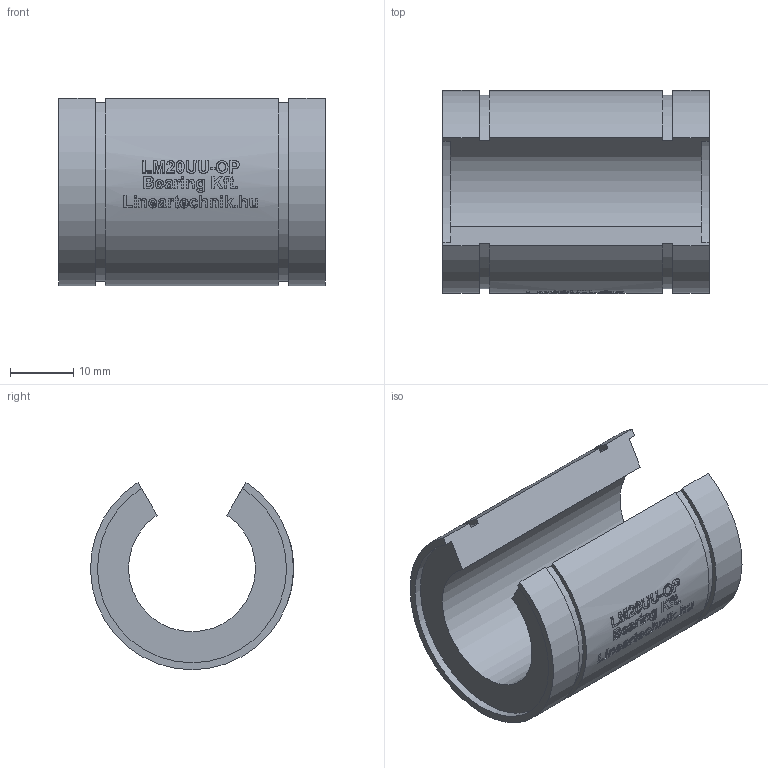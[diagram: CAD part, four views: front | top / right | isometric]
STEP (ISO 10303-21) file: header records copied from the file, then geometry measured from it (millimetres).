
FILE_DESCRIPTION(/* description */ (''),/* implementation_level */ '2;1');
FILE_NAME(/* name */ 'LM20UU-OP',/* time_stamp */ '2019-07-10T16:11:21+02:00',/* author */ ('VĂ©gh MĂˇtĂ©'),/* organization */ ('Bearing Kft'),/* preprocessor_version */ 'ST-DEVELOPER v16.7',/* originating_system */ 'DEX',/* authorisation */ $);
FILE_SCHEMA (('AUTOMOTIVE_DESIGN {1 0 10303 214 3 1 1}'));
Length unit declared in the file: millimetre
Products named in the file (1): LM20UU-OP
Bounding box: 42 x 32 x 29.55 mm (x, y, z)
Volume: 15907.5 mm3; surface area: 7215.1 mm2
Topology: 1 solids, 1 shells, 321 faces, 808 edges, 539 vertices
Faces by surface type: plane 168, bspline 95, cylinder 58
Entity records: 16393 total; most frequent: CARTESIAN_POINT 9156, ORIENTED_EDGE 1606, DIRECTION 1221, EDGE_CURVE 803, VERTEX_POINT 539, LINE 453, VECTOR 453, AXIS2_PLACEMENT_3D 384
